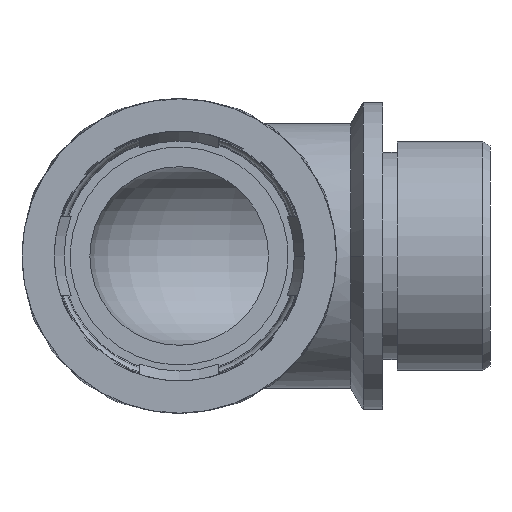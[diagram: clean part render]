
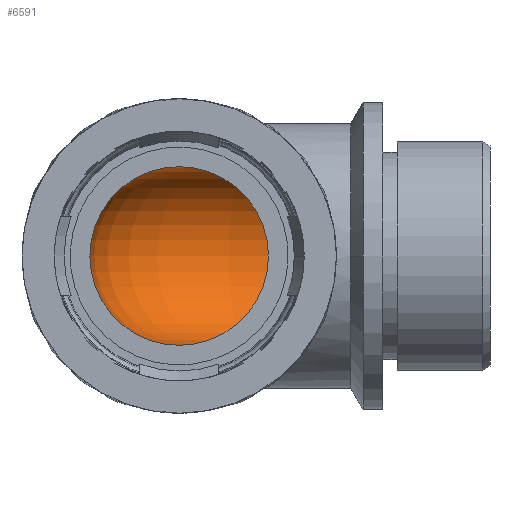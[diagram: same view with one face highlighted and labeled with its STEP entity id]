
A CAD part, front view. The second image highlights one B-rep face of the part: STEP entity #6591.
In plain terms, the highlighted toroidal (fillet/blend) face has major radius 12.5 mm and minor radius 12.5 mm.
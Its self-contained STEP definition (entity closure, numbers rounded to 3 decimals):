
#95 = CARTESIAN_POINT ( 'NONE',  ( 12.5, 49., 0. ) ) ;
#388 = CIRCLE ( 'NONE', #3153, 12.5 ) ;
#622 = AXIS2_PLACEMENT_3D ( 'NONE', #95, #9938, #2298 ) ;
#801 = EDGE_CURVE ( 'NONE', #8052, #7404, #6758, .T. ) ;
#991 = TOROIDAL_SURFACE ( 'NONE', #2235, 12.5, 12.5 ) ;
#1077 = AXIS2_PLACEMENT_3D ( 'NONE', #3081, #9577, #9725 ) ;
#1172 = DIRECTION ( 'NONE',  ( 0., 0., -1. ) ) ;
#2181 = ORIENTED_EDGE ( 'NONE', *, *, #801, .F. ) ;
#2235 = AXIS2_PLACEMENT_3D ( 'NONE', #12171, #5665, #10065 ) ;
#2298 = DIRECTION ( 'NONE',  ( 0., 0., -1. ) ) ;
#2662 = DIRECTION ( 'NONE',  ( 1., 0., 0. ) ) ;
#3081 = CARTESIAN_POINT ( 'NONE',  ( 12.5, 49., 0. ) ) ;
#3153 = AXIS2_PLACEMENT_3D ( 'NONE', #3310, #13255, #1172 ) ;
#3310 = CARTESIAN_POINT ( 'NONE',  ( 0., 36.5, 0. ) ) ;
#3555 = CARTESIAN_POINT ( 'NONE',  ( -12.5, 36.5, 0. ) ) ;
#3741 = DIRECTION ( 'NONE',  ( 0., 0., -1. ) ) ;
#3905 = CARTESIAN_POINT ( 'NONE',  ( 12.5, 49., -12.5 ) ) ;
#5415 = CARTESIAN_POINT ( 'NONE',  ( 12.5, 49., 12.5 ) ) ;
#5421 = CIRCLE ( 'NONE', #622, 12.5 ) ;
#5665 = DIRECTION ( 'NONE',  ( 0., 0., 1. ) ) ;
#6331 = ORIENTED_EDGE ( 'NONE', *, *, #7707, .F. ) ;
#6591 = ADVANCED_FACE ( 'NONE', ( #9171 ), #991, .F. ) ;
#6758 = CIRCLE ( 'NONE', #9704, 12.5 ) ;
#7404 = VERTEX_POINT ( 'NONE', #3555 ) ;
#7707 = EDGE_CURVE ( 'NONE', #7404, #8052, #388, .T. ) ;
#8052 = VERTEX_POINT ( 'NONE', #13511 ) ;
#8958 = DIRECTION ( 'NONE',  ( 0., 0., -1. ) ) ;
#8970 = CIRCLE ( 'NONE', #1077, 12.5 ) ;
#9171 = FACE_OUTER_BOUND ( 'NONE', #9837, .T. ) ;
#9209 = EDGE_CURVE ( 'NONE', #14004, #11080, #10401, .T. ) ;
#9255 = ORIENTED_EDGE ( 'NONE', *, *, #9209, .T. ) ;
#9577 = DIRECTION ( 'NONE',  ( 1., 0., 0. ) ) ;
#9704 = AXIS2_PLACEMENT_3D ( 'NONE', #9962, #12102, #8958 ) ;
#9725 = DIRECTION ( 'NONE',  ( 0., 0., -1. ) ) ;
#9837 = EDGE_LOOP ( 'NONE', ( #2181, #14089, #9255, #11784, #6331 ) ) ;
#9938 = DIRECTION ( 'NONE',  ( 1., 0., 0. ) ) ;
#9962 = CARTESIAN_POINT ( 'NONE',  ( 0., 36.5, 0. ) ) ;
#10046 = EDGE_CURVE ( 'NONE', #11080, #8052, #5421, .T. ) ;
#10065 = DIRECTION ( 'NONE',  ( 1., 0., 0. ) ) ;
#10206 = AXIS2_PLACEMENT_3D ( 'NONE', #11288, #2662, #3741 ) ;
#10401 = CIRCLE ( 'NONE', #10206, 12.5 ) ;
#10920 = EDGE_CURVE ( 'NONE', #8052, #14004, #8970, .T. ) ;
#11080 = VERTEX_POINT ( 'NONE', #5415 ) ;
#11288 = CARTESIAN_POINT ( 'NONE',  ( 12.5, 49., 0. ) ) ;
#11784 = ORIENTED_EDGE ( 'NONE', *, *, #10046, .T. ) ;
#12102 = DIRECTION ( 'NONE',  ( 0., 1., 0. ) ) ;
#12171 = CARTESIAN_POINT ( 'NONE',  ( 12.5, 36.5, 0. ) ) ;
#13255 = DIRECTION ( 'NONE',  ( 0., 1., 0. ) ) ;
#13511 = CARTESIAN_POINT ( 'NONE',  ( 12.5, 36.5, 0. ) ) ;
#14004 = VERTEX_POINT ( 'NONE', #3905 ) ;
#14089 = ORIENTED_EDGE ( 'NONE', *, *, #10920, .T. ) ;
